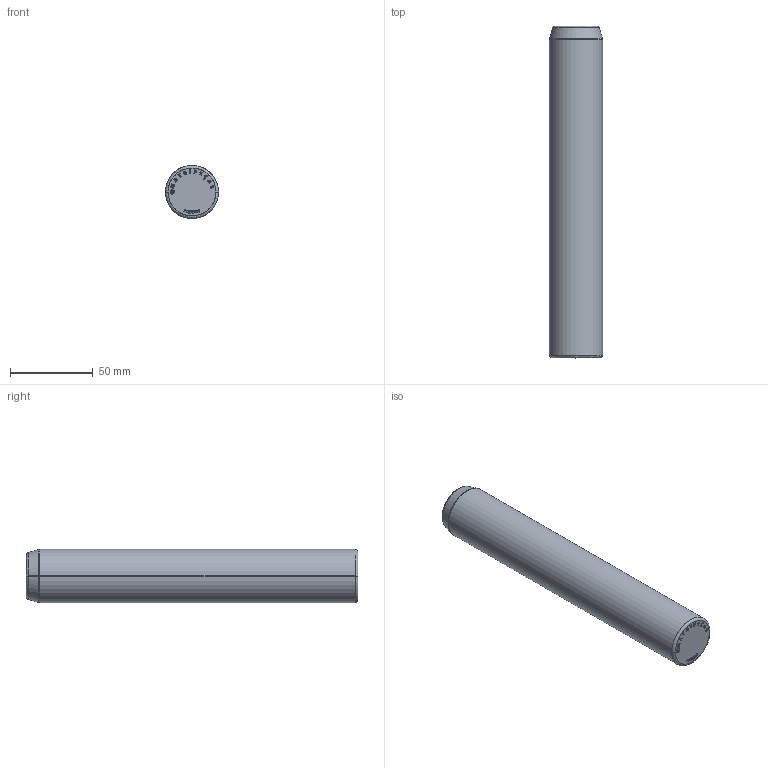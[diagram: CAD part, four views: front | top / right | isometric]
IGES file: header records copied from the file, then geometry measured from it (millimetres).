
Start section: SolidWorks IGES file using analytic representation for surfaces
Global section: file name: D:\Cleonir_arquivos\MT_15_07\Pinos Lisos\PL32200.igs; native system: SolidWorks 2013; preprocessor: SolidWorks 2013; author: Cleonir; date: 130731.134501; units: millimetre
Bounding box: 32 x 200 x 32 mm (x, y, z)
Surface area: 21874.8 mm2 (no closed solid volume)
Topology: 0 solids, 0 shells, 277 faces, 3508 edges, 3506 vertices
Faces by surface type: bspline 256, revolution 21
